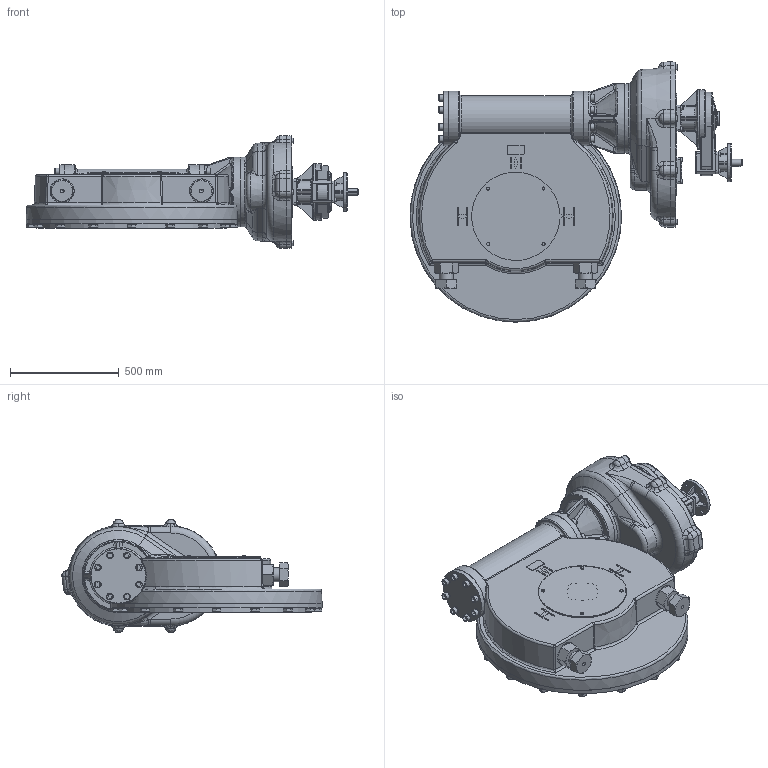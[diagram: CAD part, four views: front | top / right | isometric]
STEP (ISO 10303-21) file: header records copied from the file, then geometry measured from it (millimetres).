
FILE_DESCRIPTION( ( 'Unknown' ), '1' );
FILE_NAME( 'X:/CURRENT/PUB/IW/IW-2009/IW-2009-MODELS/IW - 3D Models Simplified STEP/PUB-IW12CDS1_IR4AS5_simplified.stp', 'Unknown', ( 'Unknown' ), ( 'Unknown' ), 'PSStep 15.0.49', 'Unknown', ' ' );
FILE_SCHEMA( ( 'AUTOMOTIVE_DESIGN { 1 0 10303 214 1 1 1 1 }' ) );
Length unit declared in the file: millimetre
Products named in the file (107): 1; 2; 3; 4; 5; 6; 7; 8; 9; 10; 11; 12; 13; 14; 15; 16; 17; 18; 19; 20; 21; 22; 23; 24; 25; 26; 27; 28; 29; 30; 31; 32; 33; 34; 35; 36; 37; 38; 39; 40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
Bounding box: 1525.38 x 1195.99 x 519.96 mm (x, y, z)
Surface area: 4813375.3 mm2 (no closed solid volume)
Topology: 0 solids, 1520 shells, 1520 faces, 6835 edges, 6654 vertices
Faces by surface type: plane 634, cone 276, cylinder 266, bspline 189, torus 127, sphere 28
Full cylindrical faces by diameter (mm): 8.5 x6, 12 x1, 16 x4, 16.5 x4, 17.5 x2, 18 x8, 30 x17, 30.7 x16, 31.67 x8, 35 x2, 39 x16, 64 x2, 79.375 x1, 80 x1, 100 x1, 175 x1, 250 x2, 320 x1, 330 x1, 400 x1, 871 x1, 972 x1
Entity records: 131916 total; most frequent: CARTESIAN_POINT 69041, DIRECTION 10235, VERTEX_POINT 6587, ORIENTED_EDGE 6573, EDGE_CURVE 6573, AXIS2_PLACEMENT_3D 3886, LINE 2463, VECTOR 2463
